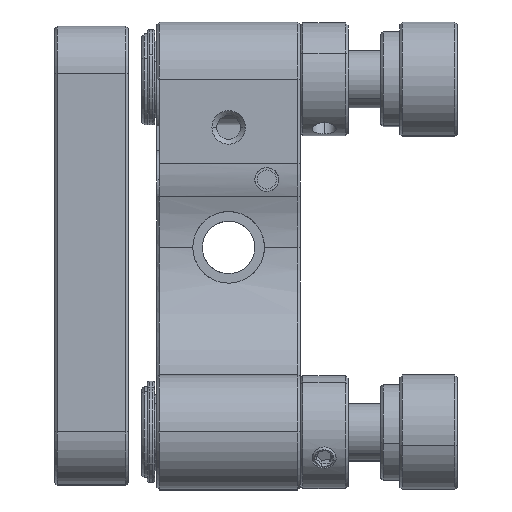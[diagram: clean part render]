
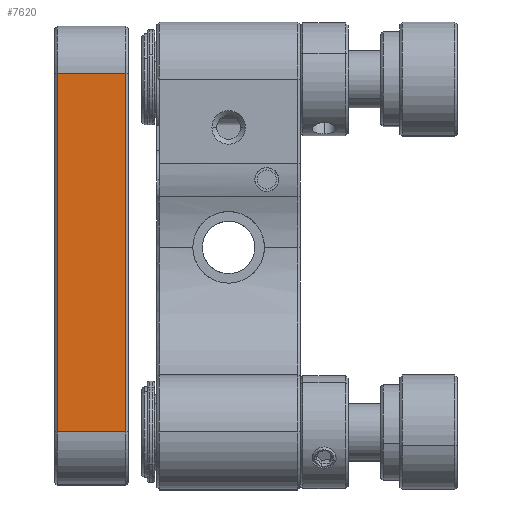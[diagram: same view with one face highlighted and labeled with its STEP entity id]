
A CAD part, top view. The second image highlights one B-rep face of the part: STEP entity #7620.
In plain terms, the highlighted planar face has unit normal (0, 0, 1).
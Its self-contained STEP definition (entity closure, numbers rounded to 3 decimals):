
#20 = VERTEX_POINT ( 'NONE', #9040 ) ;
#99 = CARTESIAN_POINT ( 'NONE',  ( -10.75, 24., 24. ) ) ;
#623 = VECTOR ( 'NONE', #12088, 1000. ) ;
#788 = DIRECTION ( 'NONE',  ( 0., 0., -1. ) ) ;
#1147 = VECTOR ( 'NONE', #2731, 1000. ) ;
#1683 = ORIENTED_EDGE ( 'NONE', *, *, #15624, .T. ) ;
#1794 = CARTESIAN_POINT ( 'NONE',  ( -18.2, 19., 24. ) ) ;
#2473 = LINE ( 'NONE', #6242, #8239 ) ;
#2546 = DIRECTION ( 'NONE',  ( 0., -1., 0. ) ) ;
#2673 = EDGE_CURVE ( 'NONE', #10698, #2877, #2473, .T. ) ;
#2731 = DIRECTION ( 'NONE',  ( 1., 0., 0. ) ) ;
#2875 = ORIENTED_EDGE ( 'NONE', *, *, #12209, .T. ) ;
#2877 = VERTEX_POINT ( 'NONE', #10862 ) ;
#3114 = ORIENTED_EDGE ( 'NONE', *, *, #11735, .T. ) ;
#4898 = CARTESIAN_POINT ( 'NONE',  ( -18.2, -18.5, 24. ) ) ;
#5706 = ORIENTED_EDGE ( 'NONE', *, *, #2673, .T. ) ;
#5709 = VECTOR ( 'NONE', #11480, 1000. ) ;
#5893 = PLANE ( 'NONE',  #9815 ) ;
#6242 = CARTESIAN_POINT ( 'NONE',  ( -17.95, -18.5, 24. ) ) ;
#6511 = VERTEX_POINT ( 'NONE', #12266 ) ;
#7314 = EDGE_LOOP ( 'NONE', ( #1683, #2875, #3114, #5706 ) ) ;
#7620 = ADVANCED_FACE ( 'NONE', ( #11665 ), #5893, .F. ) ;
#8239 = VECTOR ( 'NONE', #2546, 1000. ) ;
#9003 = CARTESIAN_POINT ( 'NONE',  ( -17.95, 19., 24. ) ) ;
#9040 = CARTESIAN_POINT ( 'NONE',  ( -10.75, -18.5, 24. ) ) ;
#9378 = CARTESIAN_POINT ( 'NONE',  ( -18.2, 24., 24. ) ) ;
#9815 = AXIS2_PLACEMENT_3D ( 'NONE', #9378, #788, #10467 ) ;
#10467 = DIRECTION ( 'NONE',  ( -1., 0., 0. ) ) ;
#10698 = VERTEX_POINT ( 'NONE', #9003 ) ;
#10862 = CARTESIAN_POINT ( 'NONE',  ( -17.95, -18.5, 24. ) ) ;
#11480 = DIRECTION ( 'NONE',  ( -1., 0., 0. ) ) ;
#11567 = LINE ( 'NONE', #1794, #5709 ) ;
#11665 = FACE_OUTER_BOUND ( 'NONE', #7314, .T. ) ;
#11735 = EDGE_CURVE ( 'NONE', #6511, #10698, #11567, .T. ) ;
#11863 = LINE ( 'NONE', #99, #623 ) ;
#12088 = DIRECTION ( 'NONE',  ( 0., 1., 0. ) ) ;
#12209 = EDGE_CURVE ( 'NONE', #20, #6511, #11863, .T. ) ;
#12266 = CARTESIAN_POINT ( 'NONE',  ( -10.75, 19., 24. ) ) ;
#14575 = LINE ( 'NONE', #4898, #1147 ) ;
#15624 = EDGE_CURVE ( 'NONE', #2877, #20, #14575, .T. ) ;
